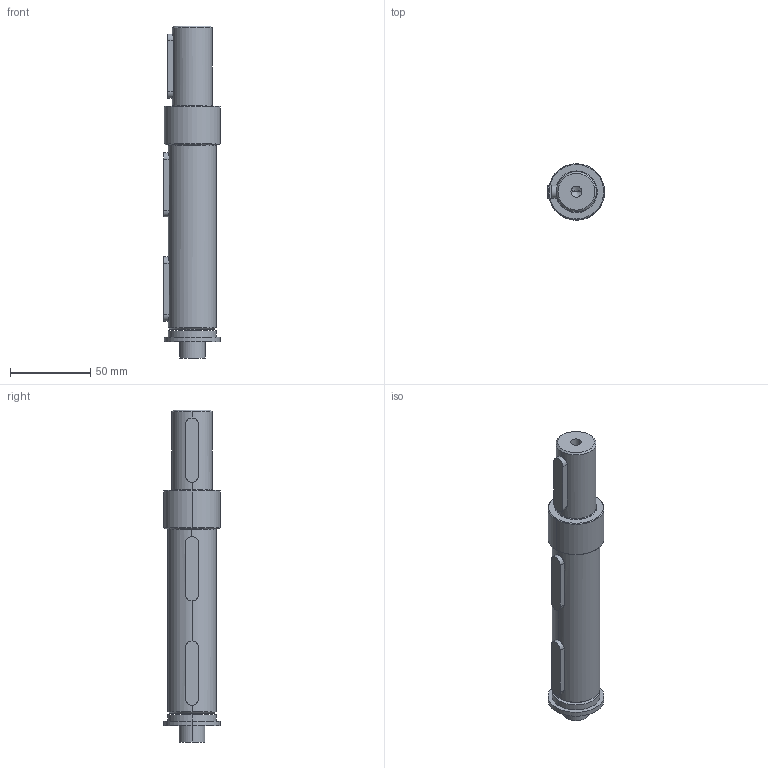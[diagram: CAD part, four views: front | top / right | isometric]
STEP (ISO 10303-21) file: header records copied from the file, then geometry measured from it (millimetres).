
FILE_DESCRIPTION((''),'2;1');
FILE_NAME('SOSEN3_2','2015-06-07T',('Luca'),(''),'PRO/ENGINEER BY PARAMETRIC TECHNOLOGY CORPORATION, 2008230','PRO/ENGINEER BY PARAMETRIC TECHNOLOGY CORPORATION, 2008230','');
FILE_SCHEMA(('CONFIG_CONTROL_DESIGN'));
Length unit declared in the file: millimetre
Products named in the file (1): SOSEN3_2
Bounding box: 35.5 x 35 x 207 mm (x, y, z)
Volume: 138797.7 mm3; surface area: 23487.4 mm2
Topology: 1 solids, 1 shells, 53 faces, 147 edges, 101 vertices
Faces by surface type: cylinder 22, plane 17, cone 10, torus 4
Entity records: 1842 total; most frequent: CARTESIAN_POINT 384, DIRECTION 319, ORIENTED_EDGE 290, EDGE_CURVE 145, AXIS2_PLACEMENT_3D 133, VERTEX_POINT 101, CIRCLE 80, EDGE_LOOP 60
